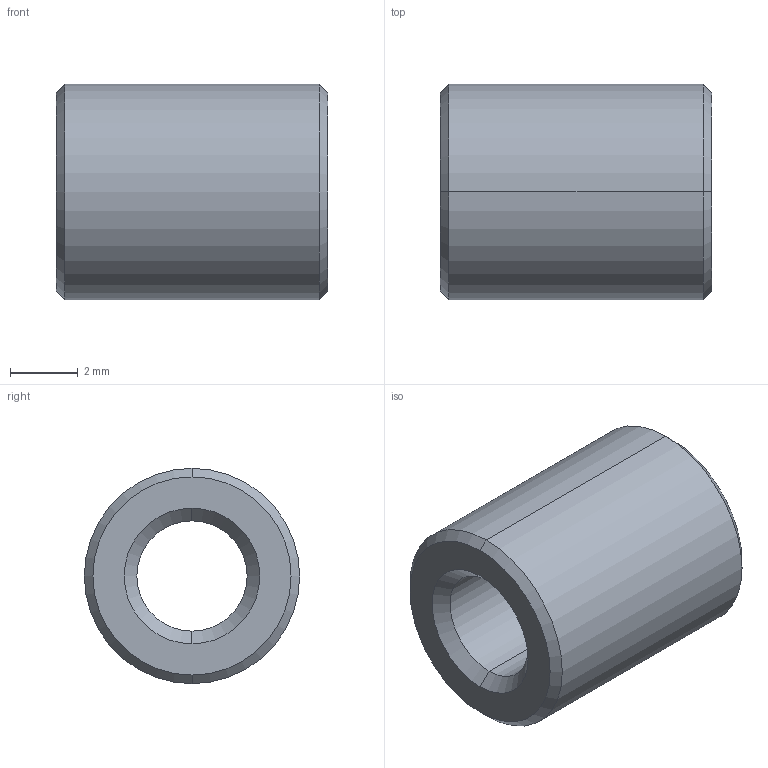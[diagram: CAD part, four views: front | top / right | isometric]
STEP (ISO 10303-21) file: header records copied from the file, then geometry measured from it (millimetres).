
FILE_DESCRIPTION(('starvars output'),'2;1');
FILE_NAME('cv20190724094001000060821.stp','09:40:01 2019/07/24',( 'Thomas Industrial Network Germany GmbH'),( 'Thomas Industrial Network Germany GmbH'),'unknown preprocess','ACIS' ,'unknown authorization');
FILE_SCHEMA(('AUTOMOTIVE_DESIGN_CC2 {UNKNOWN IMPLEMENTATION LEVEL}'));
Length unit declared in the file: millimetre
Products named in the file (1): PRODUCT_ID_1
Bounding box: 8 x 6.35 x 6.35 mm (x, y, z)
Volume: 184.2 mm3; surface area: 277.8 mm2
Topology: 1 solids, 1 shells, 14 faces, 28 edges, 16 vertices
Faces by surface type: cone 8, cylinder 4, plane 2
Entity records: 493 total; most frequent: ORIENTED_EDGE 56, CARTESIAN_POINT 44, DIRECTION 44, EDGE_CURVE 28, VERTEX_POINT 16, AXIS2_PLACEMENT_3D 16, EDGE_LOOP 16, FACE_BOUND 16
